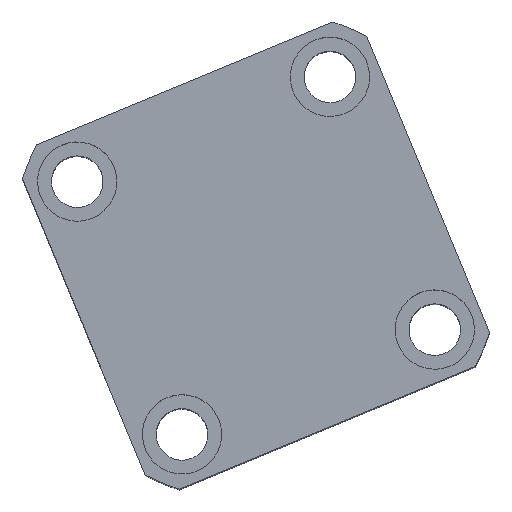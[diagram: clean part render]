
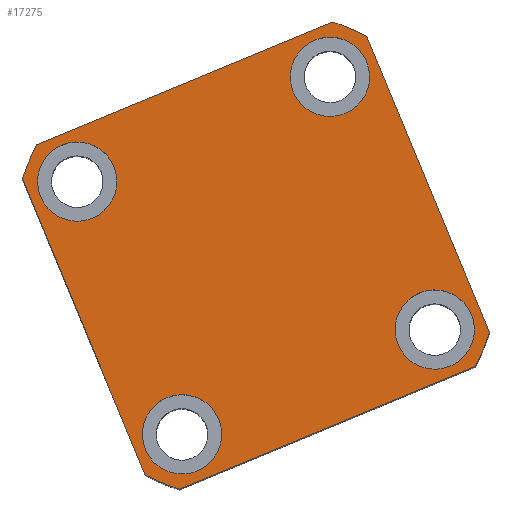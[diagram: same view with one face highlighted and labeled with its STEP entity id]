
A CAD part, top view. The second image highlights one B-rep face of the part: STEP entity #17275.
In plain terms, the highlighted planar face has unit normal (0, 0, 1) as drawn and (0, 0, -1) by its records, which use the part's own axes.
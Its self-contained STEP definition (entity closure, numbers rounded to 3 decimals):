
#169 = VECTOR ( 'NONE', #13647, 1000. ) ;
#196 = FACE_BOUND ( 'NONE', #6325, .T. ) ;
#306 = EDGE_LOOP ( 'NONE', ( #1518, #858, #3064, #3034, #5714, #5653, #10580, #5162 ) ) ;
#330 = EDGE_CURVE ( 'NONE', #3050, #5327, #4528, .T. ) ;
#338 = CARTESIAN_POINT ( 'NONE',  ( 47., 40.435, 0. ) ) ;
#351 = DIRECTION ( 'NONE',  ( -1., 0., 0. ) ) ;
#608 = DIRECTION ( 'NONE',  ( 1., 0., 0. ) ) ;
#626 = CARTESIAN_POINT ( 'NONE',  ( 0., 0., 0. ) ) ;
#858 = ORIENTED_EDGE ( 'NONE', *, *, #330, .F. ) ;
#1050 = VECTOR ( 'NONE', #14293, 1000. ) ;
#1518 = ORIENTED_EDGE ( 'NONE', *, *, #12438, .F. ) ;
#1801 = CARTESIAN_POINT ( 'NONE',  ( -34.5, -34.5, 0. ) ) ;
#1992 = DIRECTION ( 'NONE',  ( 1., 0., 0. ) ) ;
#2132 = CIRCLE ( 'NONE', #6410, 62. ) ;
#2160 = CIRCLE ( 'NONE', #6376, 10. ) ;
#2179 = EDGE_CURVE ( 'NONE', #6363, #6541, #17116, .T. ) ;
#2245 = ORIENTED_EDGE ( 'NONE', *, *, #4569, .F. ) ;
#2274 = EDGE_CURVE ( 'NONE', #7726, #14223, #2132, .T. ) ;
#2766 = DIRECTION ( 'NONE',  ( 0., 0., -1. ) ) ;
#3034 = ORIENTED_EDGE ( 'NONE', *, *, #5088, .F. ) ;
#3050 = VERTEX_POINT ( 'NONE', #15155 ) ;
#3064 = ORIENTED_EDGE ( 'NONE', *, *, #16696, .F. ) ;
#3156 = DIRECTION ( 'NONE',  ( -1., 0., 0. ) ) ;
#3159 = CARTESIAN_POINT ( 'NONE',  ( 24.5, -34.5, 0. ) ) ;
#3513 = VERTEX_POINT ( 'NONE', #10886 ) ;
#3533 = AXIS2_PLACEMENT_3D ( 'NONE', #5509, #15091, #6902 ) ;
#3622 = AXIS2_PLACEMENT_3D ( 'NONE', #10969, #2766, #12337 ) ;
#3769 = AXIS2_PLACEMENT_3D ( 'NONE', #5089, #14673, #6490 ) ;
#3828 = AXIS2_PLACEMENT_3D ( 'NONE', #16738, #8552, #351 ) ;
#3927 = VERTEX_POINT ( 'NONE', #5444 ) ;
#3954 = DIRECTION ( 'NONE',  ( 0., 0., 1. ) ) ;
#3993 = CARTESIAN_POINT ( 'NONE',  ( -34.5, 34.5, 0. ) ) ;
#4065 = CARTESIAN_POINT ( 'NONE',  ( -47., -47., 0. ) ) ;
#4115 = ORIENTED_EDGE ( 'NONE', *, *, #14610, .F. ) ;
#4274 = DIRECTION ( 'NONE',  ( -1., 0., 0. ) ) ;
#4309 = CARTESIAN_POINT ( 'NONE',  ( 40.435, -47., 0. ) ) ;
#4369 = CARTESIAN_POINT ( 'NONE',  ( -24.5, 34.5, 0. ) ) ;
#4507 = VERTEX_POINT ( 'NONE', #17418 ) ;
#4524 = ORIENTED_EDGE ( 'NONE', *, *, #11319, .F. ) ;
#4528 = LINE ( 'NONE', #14279, #5393 ) ;
#4540 = CARTESIAN_POINT ( 'NONE',  ( -34.5, 34.5, 0. ) ) ;
#4569 = EDGE_CURVE ( 'NONE', #8034, #3927, #8743, .T. ) ;
#4832 = DIRECTION ( 'NONE',  ( 0., 1., 0. ) ) ;
#5088 = EDGE_CURVE ( 'NONE', #14223, #12271, #14736, .T. ) ;
#5089 = CARTESIAN_POINT ( 'NONE',  ( 0., 0., 0. ) ) ;
#5162 = ORIENTED_EDGE ( 'NONE', *, *, #15600, .F. ) ;
#5327 = VERTEX_POINT ( 'NONE', #338 ) ;
#5376 = DIRECTION ( 'NONE',  ( -1., 0., 0. ) ) ;
#5393 = VECTOR ( 'NONE', #4832, 1000. ) ;
#5444 = CARTESIAN_POINT ( 'NONE',  ( 44.5, 34.5, 0. ) ) ;
#5465 = ORIENTED_EDGE ( 'NONE', *, *, #13840, .F. ) ;
#5509 = CARTESIAN_POINT ( 'NONE',  ( 34.5, 34.5, 0. ) ) ;
#5653 = ORIENTED_EDGE ( 'NONE', *, *, #12866, .F. ) ;
#5714 = ORIENTED_EDGE ( 'NONE', *, *, #2274, .F. ) ;
#5771 = VECTOR ( 'NONE', #4274, 1000. ) ;
#5933 = DIRECTION ( 'NONE',  ( -1., 0., 0. ) ) ;
#5954 = AXIS2_PLACEMENT_3D ( 'NONE', #626, #10188, #1992 ) ;
#6123 = VERTEX_POINT ( 'NONE', #4369 ) ;
#6222 = CIRCLE ( 'NONE', #3828, 10. ) ;
#6325 = EDGE_LOOP ( 'NONE', ( #17015, #4115 ) ) ;
#6363 = VERTEX_POINT ( 'NONE', #3159 ) ;
#6376 = AXIS2_PLACEMENT_3D ( 'NONE', #15934, #7760, #17320 ) ;
#6410 = AXIS2_PLACEMENT_3D ( 'NONE', #6976, #16536, #8354 ) ;
#6442 = ORIENTED_EDGE ( 'NONE', *, *, #6995, .F. ) ;
#6490 = DIRECTION ( 'NONE',  ( 1., 0., 0. ) ) ;
#6541 = VERTEX_POINT ( 'NONE', #16500 ) ;
#6718 = CARTESIAN_POINT ( 'NONE',  ( -47., -40.435, 0. ) ) ;
#6902 = DIRECTION ( 'NONE',  ( -1., 0., 0. ) ) ;
#6976 = CARTESIAN_POINT ( 'NONE',  ( 0., 0., 0. ) ) ;
#6995 = EDGE_CURVE ( 'NONE', #10807, #6123, #17108, .T. ) ;
#7442 = EDGE_CURVE ( 'NONE', #4507, #16743, #8547, .T. ) ;
#7720 = EDGE_CURVE ( 'NONE', #6123, #10807, #10890, .T. ) ;
#7726 = VERTEX_POINT ( 'NONE', #6718 ) ;
#7760 = DIRECTION ( 'NONE',  ( 0., 0., -1. ) ) ;
#7914 = CARTESIAN_POINT ( 'NONE',  ( 34.5, 34.5, 0. ) ) ;
#8030 = VERTEX_POINT ( 'NONE', #9732 ) ;
#8034 = VERTEX_POINT ( 'NONE', #13851 ) ;
#8099 = CARTESIAN_POINT ( 'NONE',  ( -47., 40.435, 0. ) ) ;
#8306 = LINE ( 'NONE', #15670, #1050 ) ;
#8354 = DIRECTION ( 'NONE',  ( 1., 0., 0. ) ) ;
#8547 = CIRCLE ( 'NONE', #3769, 62. ) ;
#8552 = DIRECTION ( 'NONE',  ( 0., 0., -1. ) ) ;
#8743 = CIRCLE ( 'NONE', #13714, 10. ) ;
#8760 = AXIS2_PLACEMENT_3D ( 'NONE', #1801, #11365, #3156 ) ;
#8766 = CIRCLE ( 'NONE', #9562, 62. ) ;
#8799 = DIRECTION ( 'NONE',  ( 0., 0., 1. ) ) ;
#9042 = ORIENTED_EDGE ( 'NONE', *, *, #7720, .F. ) ;
#9248 = AXIS2_PLACEMENT_3D ( 'NONE', #11478, #8799, #608 ) ;
#9288 = DIRECTION ( 'NONE',  ( -1., 0., 0. ) ) ;
#9562 = AXIS2_PLACEMENT_3D ( 'NONE', #12147, #3954, #13534 ) ;
#9732 = CARTESIAN_POINT ( 'NONE',  ( 40.435, 47., 0. ) ) ;
#9816 = FACE_OUTER_BOUND ( 'NONE', #306, .T. ) ;
#10011 = CIRCLE ( 'NONE', #5954, 62. ) ;
#10188 = DIRECTION ( 'NONE',  ( 0., 0., 1. ) ) ;
#10258 = FACE_BOUND ( 'NONE', #11053, .T. ) ;
#10580 = ORIENTED_EDGE ( 'NONE', *, *, #7442, .F. ) ;
#10807 = VERTEX_POINT ( 'NONE', #15945 ) ;
#10886 = CARTESIAN_POINT ( 'NONE',  ( -24.5, -34.5, 0. ) ) ;
#10890 = CIRCLE ( 'NONE', #12036, 10. ) ;
#10892 = EDGE_LOOP ( 'NONE', ( #12860, #5465 ) ) ;
#10969 = CARTESIAN_POINT ( 'NONE',  ( 34.5, -34.5, 0. ) ) ;
#11053 = EDGE_LOOP ( 'NONE', ( #2245, #4524 ) ) ;
#11319 = EDGE_CURVE ( 'NONE', #3927, #8034, #14749, .T. ) ;
#11365 = DIRECTION ( 'NONE',  ( 0., 0., -1. ) ) ;
#11444 = AXIS2_PLACEMENT_3D ( 'NONE', #4540, #14116, #5933 ) ;
#11478 = CARTESIAN_POINT ( 'NONE',  ( 0., 0., 0. ) ) ;
#12036 = AXIS2_PLACEMENT_3D ( 'NONE', #3993, #13579, #5376 ) ;
#12147 = CARTESIAN_POINT ( 'NONE',  ( 0., 0., 0. ) ) ;
#12271 = VERTEX_POINT ( 'NONE', #4309 ) ;
#12337 = DIRECTION ( 'NONE',  ( -1., 0., 0. ) ) ;
#12438 = EDGE_CURVE ( 'NONE', #5327, #8030, #10011, .T. ) ;
#12860 = ORIENTED_EDGE ( 'NONE', *, *, #2179, .F. ) ;
#12866 = EDGE_CURVE ( 'NONE', #16743, #7726, #8306, .T. ) ;
#13289 = CIRCLE ( 'NONE', #8760, 10. ) ;
#13383 = EDGE_LOOP ( 'NONE', ( #6442, #9042 ) ) ;
#13467 = FACE_BOUND ( 'NONE', #13383, .T. ) ;
#13534 = DIRECTION ( 'NONE',  ( 1., 0., 0. ) ) ;
#13579 = DIRECTION ( 'NONE',  ( 0., 0., -1. ) ) ;
#13647 = DIRECTION ( 'NONE',  ( 1., 0., 0. ) ) ;
#13714 = AXIS2_PLACEMENT_3D ( 'NONE', #7914, #17477, #9288 ) ;
#13840 = EDGE_CURVE ( 'NONE', #6541, #6363, #2160, .T. ) ;
#13851 = CARTESIAN_POINT ( 'NONE',  ( 24.5, 34.5, 0. ) ) ;
#14116 = DIRECTION ( 'NONE',  ( 0., 0., -1. ) ) ;
#14223 = VERTEX_POINT ( 'NONE', #17711 ) ;
#14279 = CARTESIAN_POINT ( 'NONE',  ( 47., 47., 0. ) ) ;
#14293 = DIRECTION ( 'NONE',  ( 0., -1., 0. ) ) ;
#14610 = EDGE_CURVE ( 'NONE', #3513, #17547, #13289, .T. ) ;
#14673 = DIRECTION ( 'NONE',  ( 0., 0., 1. ) ) ;
#14736 = LINE ( 'NONE', #4065, #169 ) ;
#14749 = CIRCLE ( 'NONE', #3533, 10. ) ;
#15091 = DIRECTION ( 'NONE',  ( 0., 0., -1. ) ) ;
#15119 = CARTESIAN_POINT ( 'NONE',  ( -47., 47., 0. ) ) ;
#15155 = CARTESIAN_POINT ( 'NONE',  ( 47., -40.435, 0. ) ) ;
#15600 = EDGE_CURVE ( 'NONE', #8030, #4507, #16687, .T. ) ;
#15670 = CARTESIAN_POINT ( 'NONE',  ( -47., 47., 0. ) ) ;
#15690 = EDGE_CURVE ( 'NONE', #17547, #3513, #6222, .T. ) ;
#15934 = CARTESIAN_POINT ( 'NONE',  ( 34.5, -34.5, 0. ) ) ;
#15945 = CARTESIAN_POINT ( 'NONE',  ( -44.5, 34.5, 0. ) ) ;
#16500 = CARTESIAN_POINT ( 'NONE',  ( 44.5, -34.5, 0. ) ) ;
#16536 = DIRECTION ( 'NONE',  ( 0., 0., 1. ) ) ;
#16687 = LINE ( 'NONE', #15119, #5771 ) ;
#16696 = EDGE_CURVE ( 'NONE', #12271, #3050, #8766, .T. ) ;
#16738 = CARTESIAN_POINT ( 'NONE',  ( -34.5, -34.5, 0. ) ) ;
#16743 = VERTEX_POINT ( 'NONE', #8099 ) ;
#16988 = PLANE ( 'NONE',  #9248 ) ;
#17015 = ORIENTED_EDGE ( 'NONE', *, *, #15690, .F. ) ;
#17107 = FACE_BOUND ( 'NONE', #10892, .T. ) ;
#17108 = CIRCLE ( 'NONE', #11444, 10. ) ;
#17116 = CIRCLE ( 'NONE', #3622, 10. ) ;
#17275 = ADVANCED_FACE ( 'NONE', ( #196, #17107, #10258, #13467, #9816 ), #16988, .F. ) ;
#17320 = DIRECTION ( 'NONE',  ( -1., 0., 0. ) ) ;
#17354 = CARTESIAN_POINT ( 'NONE',  ( -44.5, -34.5, 0. ) ) ;
#17418 = CARTESIAN_POINT ( 'NONE',  ( -40.435, 47., 0. ) ) ;
#17477 = DIRECTION ( 'NONE',  ( 0., 0., -1. ) ) ;
#17547 = VERTEX_POINT ( 'NONE', #17354 ) ;
#17711 = CARTESIAN_POINT ( 'NONE',  ( -40.435, -47., 0. ) ) ;
